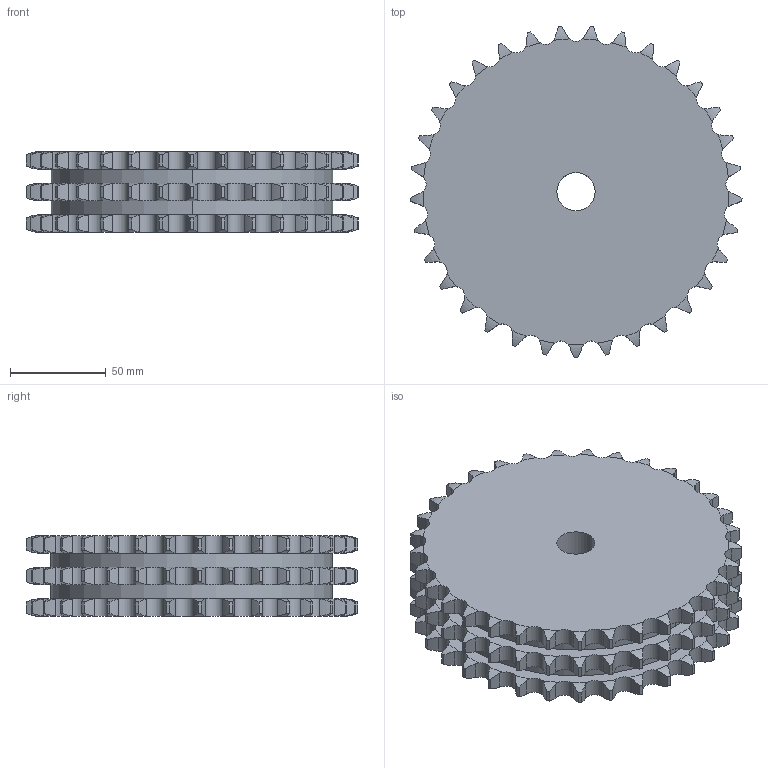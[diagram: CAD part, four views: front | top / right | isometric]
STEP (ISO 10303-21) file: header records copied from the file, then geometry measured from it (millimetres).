
FILE_DESCRIPTION((''),'2;1');
FILE_NAME('500-303-0033_PRT','2021-02-12T',('Brieden'),('Brieden'),'PRO/ENGINEER BY PARAMETRIC TECHNOLOGY CORPORATION, 2010160','PRO/ENGINEER BY PARAMETRIC TECHNOLOGY CORPORATION, 2010160','');
FILE_SCHEMA(('AUTOMOTIVE_DESIGN { 1 0 10303 214 1 1 1 1 }'));
Length unit declared in the file: millimetre
Products named in the file (1): 500-303-0033_PRT
Bounding box: 173.36 x 173.17 x 42.1 mm (x, y, z)
Volume: 805532.1 mm3; surface area: 86664.9 mm2
Topology: 1 solids, 1 shells, 606 faces, 1800 edges, 1200 vertices
Faces by surface type: cylinder 402, torus 198, plane 6
Entity records: 29511 total; most frequent: CARTESIAN_POINT 8760, ORIENTED_EDGE 3600, DIRECTION 2826, PRESENTATION_STYLE_ASSIGNMENT 1801, STYLED_ITEM 1801, CURVE_STYLE 1800, EDGE_CURVE 1800, AXIS2_PLACEMENT_3D 1212
